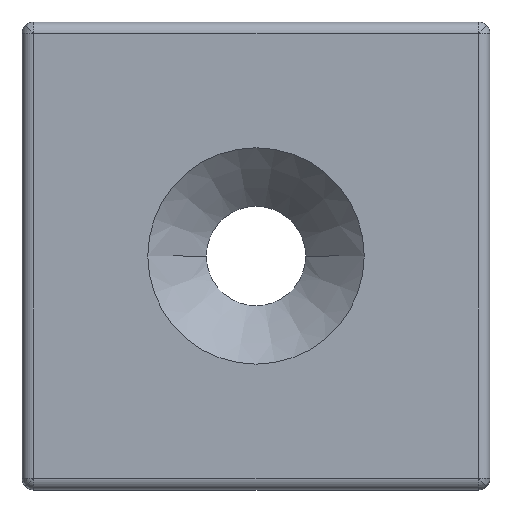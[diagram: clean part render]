
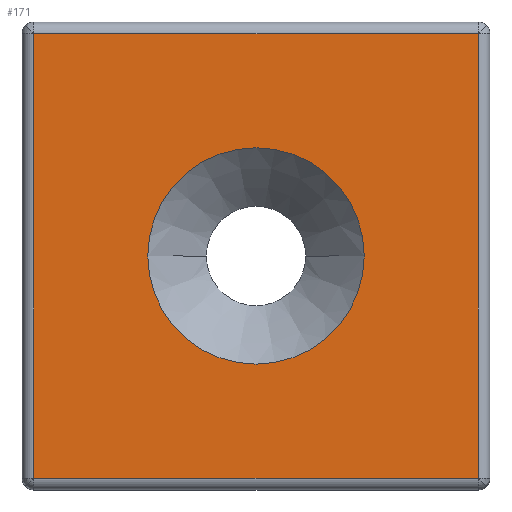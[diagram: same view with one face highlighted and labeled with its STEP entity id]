
A CAD part, top view. The second image highlights one B-rep face of the part: STEP entity #171.
In plain terms, the highlighted planar face has unit normal (0, 0, 1).
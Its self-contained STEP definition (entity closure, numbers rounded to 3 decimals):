
#55 = CARTESIAN_POINT ( 'NONE',  ( -9.25, 0., 5. ) ) ;
#96 = AXIS2_PLACEMENT_3D ( 'NONE', #585, #568, #855 ) ;
#111 = LINE ( 'NONE', #556, #527 ) ;
#136 = VECTOR ( 'NONE', #163, 1000. ) ;
#163 = DIRECTION ( 'NONE',  ( 1., 0., 0. ) ) ;
#167 = VECTOR ( 'NONE', #344, 1000. ) ;
#171 = ADVANCED_FACE ( 'NONE', ( #573, #558 ), #304, .T. ) ;
#183 = VERTEX_POINT ( 'NONE', #513 ) ;
#193 = CARTESIAN_POINT ( 'NONE',  ( 0., 0., 5. ) ) ;
#202 = CARTESIAN_POINT ( 'NONE',  ( 0., -19., 5. ) ) ;
#222 = CARTESIAN_POINT ( 'NONE',  ( 0., 0., 5. ) ) ;
#304 = PLANE ( 'NONE',  #96 ) ;
#305 = CIRCLE ( 'NONE', #370, 9.25 ) ;
#314 = DIRECTION ( 'NONE',  ( 0., -1., 0. ) ) ;
#323 = CARTESIAN_POINT ( 'NONE',  ( 0., 19., 5. ) ) ;
#344 = DIRECTION ( 'NONE',  ( -1., 0., 0. ) ) ;
#370 = AXIS2_PLACEMENT_3D ( 'NONE', #222, #1052, #854 ) ;
#436 = CIRCLE ( 'NONE', #796, 9.25 ) ;
#471 = LINE ( 'NONE', #202, #136 ) ;
#513 = CARTESIAN_POINT ( 'NONE',  ( 9.25, 0., 5. ) ) ;
#514 = VERTEX_POINT ( 'NONE', #55 ) ;
#527 = VECTOR ( 'NONE', #314, 1000. ) ;
#556 = CARTESIAN_POINT ( 'NONE',  ( -19., 0., 5. ) ) ;
#558 = FACE_OUTER_BOUND ( 'NONE', #783, .T. ) ;
#568 = DIRECTION ( 'NONE',  ( 0., 0., 1. ) ) ;
#573 = FACE_BOUND ( 'NONE', #1100, .T. ) ;
#585 = CARTESIAN_POINT ( 'NONE',  ( 0., 0., 5. ) ) ;
#610 = LINE ( 'NONE', #323, #167 ) ;
#669 = CARTESIAN_POINT ( 'NONE',  ( -19., -19., 5. ) ) ;
#702 = EDGE_CURVE ( 'NONE', #967, #810, #471, .T. ) ;
#767 = CARTESIAN_POINT ( 'NONE',  ( -19., 19., 5. ) ) ;
#783 = EDGE_LOOP ( 'NONE', ( #1170, #1186, #1156, #1143 ) ) ;
#796 = AXIS2_PLACEMENT_3D ( 'NONE', #193, #1109, #931 ) ;
#810 = VERTEX_POINT ( 'NONE', #1059 ) ;
#815 = EDGE_CURVE ( 'NONE', #810, #986, #884, .T. ) ;
#823 = EDGE_CURVE ( 'NONE', #986, #1081, #610, .T. ) ;
#837 = EDGE_CURVE ( 'NONE', #1081, #967, #111, .T. ) ;
#854 = DIRECTION ( 'NONE',  ( 1., 0., 0. ) ) ;
#855 = DIRECTION ( 'NONE',  ( 1., 0., 0. ) ) ;
#883 = EDGE_CURVE ( 'NONE', #514, #183, #436, .T. ) ;
#884 = LINE ( 'NONE', #1051, #1125 ) ;
#931 = DIRECTION ( 'NONE',  ( 1., 0., 0. ) ) ;
#934 = EDGE_CURVE ( 'NONE', #183, #514, #305, .T. ) ;
#967 = VERTEX_POINT ( 'NONE', #669 ) ;
#970 = DIRECTION ( 'NONE',  ( 0., 1., 0. ) ) ;
#986 = VERTEX_POINT ( 'NONE', #1139 ) ;
#1033 = ORIENTED_EDGE ( 'NONE', *, *, #883, .T. ) ;
#1051 = CARTESIAN_POINT ( 'NONE',  ( 19., 0., 5. ) ) ;
#1052 = DIRECTION ( 'NONE',  ( 0., 0., -1. ) ) ;
#1059 = CARTESIAN_POINT ( 'NONE',  ( 19., -19., 5. ) ) ;
#1081 = VERTEX_POINT ( 'NONE', #767 ) ;
#1100 = EDGE_LOOP ( 'NONE', ( #1033, #1173 ) ) ;
#1109 = DIRECTION ( 'NONE',  ( 0., 0., -1. ) ) ;
#1125 = VECTOR ( 'NONE', #970, 1000. ) ;
#1139 = CARTESIAN_POINT ( 'NONE',  ( 19., 19., 5. ) ) ;
#1143 = ORIENTED_EDGE ( 'NONE', *, *, #815, .T. ) ;
#1156 = ORIENTED_EDGE ( 'NONE', *, *, #702, .T. ) ;
#1170 = ORIENTED_EDGE ( 'NONE', *, *, #823, .T. ) ;
#1173 = ORIENTED_EDGE ( 'NONE', *, *, #934, .T. ) ;
#1186 = ORIENTED_EDGE ( 'NONE', *, *, #837, .T. ) ;
